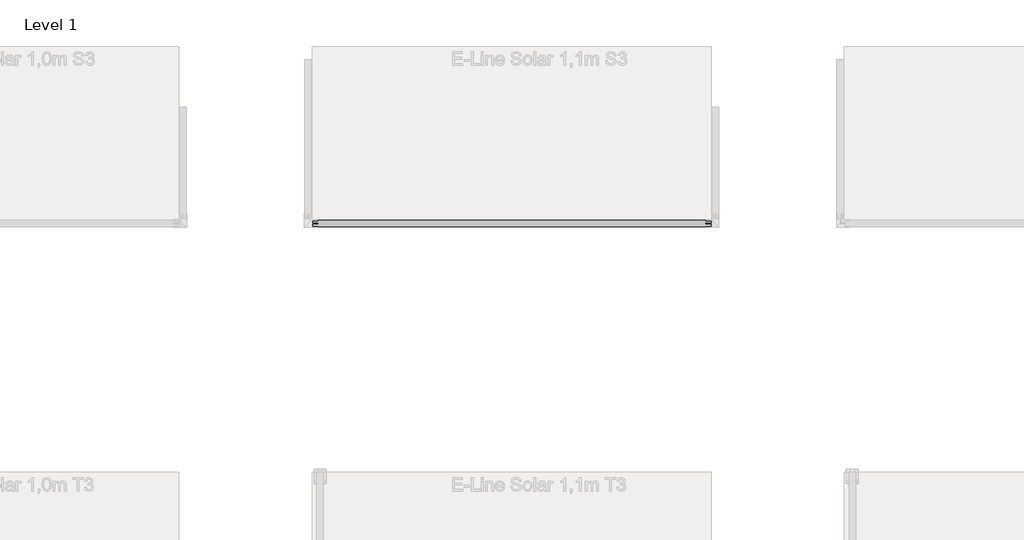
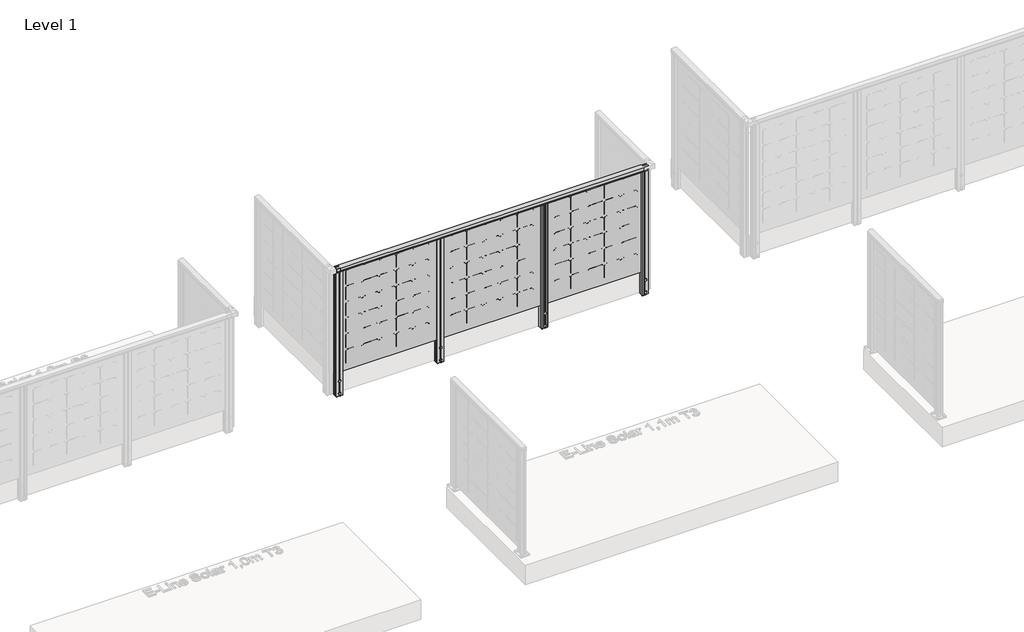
# One storey, part 39 of 66: 1 railing.
"""IFC4 building model written with IfcOpenShell, lengths in millimetres."""

from ifc_helpers import new_model, si_unit, point, frame, frame_2d, origin, place, context, project, spatial, polyline, circle_curve, trimmed, segment, composite_curve, outline, extrude, element, save

model = new_model("IFC4")

# Units and contexts
model_context = context("Model", 3, world=origin())
ifc_project = project(units=[si_unit("LENGTHUNIT", "METRE", prefix="MILLI")], contexts=[model_context])

# Site, building, storey
site = spatial("IfcSite", under=ifc_project)
building = spatial("IfcBuilding", under=site)
storey = spatial("IfcBuildingStorey", under=building, Name="Level 1", Elevation=0.0)

# Railing
placement = place(None, origin())
element("IfcRailing", 1, ObjectType="E-Line Solar 1,1m S3 5 columns of solar elements", at=placement, inside=storey, context=model_context, shape_type="SweptSolid", body=[
    extrude(outline(composite_curve([segment(polyline([(213.4211819, 1094.1390059), (213.4211819, 1067.1990555), (212.8063989, 1066.5842725), (213.4211819, 1065.9694895), (213.4211819, 1057.2498847), (211.6613734, 1057.2498847), (211.6613734, 1080.4998829), (164.6663272, 1080.4998829), (164.6663272, 1057.2498847), (162.8613743, 1057.2498847), (162.8613743, 1065.8194895), (163.4834554, 1066.4415706), (162.9015237, 1067.0235023), (162.9015237, 1094.1342258)]), True, "CONTINUOUS"), segment(trimmed(circle_curve(frame_2d((188.1662216, 1042.6785502)), 57.3235687), [point((162.9015237, 1094.1342258))], [point((213.4211819, 1094.1390059))], False, "CARTESIAN"), True, "CONTINUOUS")], self_intersect=False)), frame((19301.5263105, 0.0, 0.0), z_axis=(1.0, 0.0, 0.0), x_axis=(0.0, 1.0, 0.0)), (0.0, 0.0, 1.0), 2995.0),
    extrude(outline(polyline([(19301.5263105, 184.5015979), (19301.5263105, 193.2615979), (22296.5263105, 193.2615979), (22296.5263105, 184.5015979), (19301.5263105, 184.5015979)])), frame((0.0, 0.0, 28.0), z_axis=(0.0, 0.0, 1.0), x_axis=(1.0, 0.0, 0.0)), (0.0, 0.0, 1.0), 1052.0),
    extrude(outline(polyline([(0.0, 0.0), (-16.036927, 16.036927), (-16.036927, 139.963073), (0.0, 156.0), (123.9261459, 156.0), (139.963073, 139.963073), (139.963073, 16.036927), (123.9261459, 0.0), (0.0, 0.0)])), frame((21555.0263105, 184.3815979, 1024.4156895), z_axis=(7.733303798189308e-12, 1.0, 0.0), x_axis=(0.0, 0.0, -1.0)), (0.0, 0.0, 1.0), 1.0),
    extrude(outline(polyline([(0.0, 0.0), (-16.036927, 16.036927), (-16.036927, 139.963073), (0.0, 156.0), (123.9261459, 156.0), (139.963073, 139.963073), (139.963073, 16.036927), (123.9261459, 0.0), (0.0, 0.0)])), frame((21716.0263105, 184.3815979, 1024.4156895), z_axis=(7.733303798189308e-12, 1.0, 0.0), x_axis=(0.0, 0.0, -1.0)), (0.0, 0.0, 1.0), 1.0),
    extrude(outline(polyline([(0.0, 0.0), (-16.036927, 16.036927), (-16.036927, 139.963073), (0.0, 156.0), (123.9261459, 156.0), (139.963073, 139.963073), (139.963073, 16.036927), (123.9261459, 0.0), (0.0, 0.0)])), frame((22199.0263105, 184.3815979, 1024.4156895), z_axis=(7.733303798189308e-12, 1.0, 0.0), x_axis=(0.0, 0.0, -1.0)), (0.0, 0.0, 1.0), 1.0),
    extrude(outline(polyline([(0.0, 0.0), (-16.036927, 16.036927), (-16.036927, 139.963073), (0.0, 156.0), (123.9261459, 156.0), (139.963073, 139.963073), (139.963073, 16.036927), (123.9261459, 0.0), (0.0, 0.0)])), frame((22038.0263105, 184.3815979, 1024.4156895), z_axis=(7.733303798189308e-12, 1.0, 0.0), x_axis=(0.0, 0.0, -1.0)), (0.0, 0.0, 1.0), 1.0),
    extrude(outline(polyline([(0.0, 0.0), (-16.036927, 16.036927), (-16.036927, 139.963073), (0.0, 156.0), (123.9261459, 156.0), (139.963073, 139.963073), (139.963073, 16.036927), (123.9261459, 0.0), (0.0, 0.0)])), frame((21877.0263105, 184.3815979, 1024.4156895), z_axis=(7.733303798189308e-12, 1.0, 0.0), x_axis=(0.0, 0.0, -1.0)), (0.0, 0.0, 1.0), 1.0),
    extrude(outline(polyline([(0.0, 0.0), (-16.036927, 16.036927), (-16.036927, 139.963073), (0.0, 156.0), (123.9261459, 156.0), (139.963073, 139.963073), (139.963073, 16.036927), (123.9261459, 0.0), (0.0, 0.0)])), frame((21555.0263105, 184.3815979, 863.4156895), z_axis=(7.733303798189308e-12, 1.0, 0.0), x_axis=(0.0, 0.0, -1.0)), (0.0, 0.0, 1.0), 1.0),
    extrude(outline(polyline([(0.0, 0.0), (-16.036927, 16.036927), (-16.036927, 139.963073), (0.0, 156.0), (123.9261459, 156.0), (139.963073, 139.963073), (139.963073, 16.036927), (123.9261459, 0.0), (0.0, 0.0)])), frame((21555.0263105, 184.3815979, 702.4156895), z_axis=(7.733303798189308e-12, 1.0, 0.0), x_axis=(0.0, 0.0, -1.0)), (0.0, 0.0, 1.0), 1.0),
    extrude(outline(polyline([(0.0, 0.0), (-16.036927, 16.036927), (-16.036927, 139.963073), (0.0, 156.0), (123.9261459, 156.0), (139.963073, 139.963073), (139.963073, 16.036927), (123.9261459, 0.0), (0.0, 0.0)])), frame((21555.0263105, 184.3815979, 541.4156895), z_axis=(7.733303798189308e-12, 1.0, 0.0), x_axis=(0.0, 0.0, -1.0)), (0.0, 0.0, 1.0), 1.0),
    extrude(outline(polyline([(0.0, 0.0), (-16.036927, 16.036927), (-16.036927, 139.963073), (0.0, 156.0), (123.9261459, 156.0), (139.963073, 139.963073), (139.963073, 16.036927), (123.9261459, 0.0), (0.0, 0.0)])), frame((21555.0263105, 184.3815979, 380.4156895), z_axis=(7.733303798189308e-12, 1.0, 0.0), x_axis=(0.0, 0.0, -1.0)), (0.0, 0.0, 1.0), 1.0),
    extrude(outline(polyline([(0.0, 0.0), (-16.036927, 16.036927), (-16.036927, 139.963073), (0.0, 156.0), (123.9261459, 156.0), (139.963073, 139.963073), (139.963073, 16.036927), (123.9261459, 0.0), (0.0, 0.0)])), frame((21555.0263105, 184.3815979, 219.4156895), z_axis=(7.733303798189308e-12, 1.0, 0.0), x_axis=(0.0, 0.0, -1.0)), (0.0, 0.0, 1.0), 1.0),
    extrude(outline(polyline([(0.0, 0.0), (-16.036927, 16.036927), (-16.036927, 139.963073), (0.0, 156.0), (123.9261459, 156.0), (139.963073, 139.963073), (139.963073, 16.036927), (123.9261459, 0.0), (0.0, 0.0)])), frame((21716.0263105, 184.3815979, 863.4156895), z_axis=(7.733303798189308e-12, 1.0, 0.0), x_axis=(0.0, 0.0, -1.0)), (0.0, 0.0, 1.0), 1.0),
    extrude(outline(polyline([(0.0, 0.0), (-16.036927, 16.036927), (-16.036927, 139.963073), (0.0, 156.0), (123.9261459, 156.0), (139.963073, 139.963073), (139.963073, 16.036927), (123.9261459, 0.0), (0.0, 0.0)])), frame((21716.0263105, 184.3815979, 702.4156895), z_axis=(7.733303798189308e-12, 1.0, 0.0), x_axis=(0.0, 0.0, -1.0)), (0.0, 0.0, 1.0), 1.0),
    extrude(outline(polyline([(0.0, 0.0), (-16.036927, 16.036927), (-16.036927, 139.963073), (0.0, 156.0), (123.9261459, 156.0), (139.963073, 139.963073), (139.963073, 16.036927), (123.9261459, 0.0), (0.0, 0.0)])), frame((21716.0263105, 184.3815979, 541.4156895), z_axis=(7.733303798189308e-12, 1.0, 0.0), x_axis=(0.0, 0.0, -1.0)), (0.0, 0.0, 1.0), 1.0),
    extrude(outline(polyline([(0.0, 0.0), (-16.036927, 16.036927), (-16.036927, 139.963073), (0.0, 156.0), (123.9261459, 156.0), (139.963073, 139.963073), (139.963073, 16.036927), (123.9261459, 0.0), (0.0, 0.0)])), frame((21716.0263105, 184.3815979, 380.4156895), z_axis=(7.733303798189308e-12, 1.0, 0.0), x_axis=(0.0, 0.0, -1.0)), (0.0, 0.0, 1.0), 1.0),
    extrude(outline(polyline([(0.0, 0.0), (-16.036927, 16.036927), (-16.036927, 139.963073), (0.0, 156.0), (123.9261459, 156.0), (139.963073, 139.963073), (139.963073, 16.036927), (123.9261459, 0.0), (0.0, 0.0)])), frame((21716.0263105, 184.3815979, 219.4156895), z_axis=(7.733303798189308e-12, 1.0, 0.0), x_axis=(0.0, 0.0, -1.0)), (0.0, 0.0, 1.0), 1.0),
    extrude(outline(polyline([(0.0, 0.0), (-16.036927, 16.036927), (-16.036927, 139.963073), (0.0, 156.0), (123.9261459, 156.0), (139.963073, 139.963073), (139.963073, 16.036927), (123.9261459, 0.0), (0.0, 0.0)])), frame((22199.0263105, 184.3815979, 863.4156895), z_axis=(7.733303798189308e-12, 1.0, 0.0), x_axis=(0.0, 0.0, -1.0)), (0.0, 0.0, 1.0), 1.0),
    extrude(outline(polyline([(0.0, 0.0), (-16.036927, 16.036927), (-16.036927, 139.963073), (0.0, 156.0), (123.9261459, 156.0), (139.963073, 139.963073), (139.963073, 16.036927), (123.9261459, 0.0), (0.0, 0.0)])), frame((22199.0263105, 184.3815979, 702.4156895), z_axis=(7.733303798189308e-12, 1.0, 0.0), x_axis=(0.0, 0.0, -1.0)), (0.0, 0.0, 1.0), 1.0),
    extrude(outline(polyline([(0.0, 0.0), (-16.036927, 16.036927), (-16.036927, 139.963073), (0.0, 156.0), (123.9261459, 156.0), (139.963073, 139.963073), (139.963073, 16.036927), (123.9261459, 0.0), (0.0, 0.0)])), frame((22199.0263105, 184.3815979, 541.4156895), z_axis=(7.733303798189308e-12, 1.0, 0.0), x_axis=(0.0, 0.0, -1.0)), (0.0, 0.0, 1.0), 1.0),
    extrude(outline(polyline([(0.0, 0.0), (-16.036927, 16.036927), (-16.036927, 139.963073), (0.0, 156.0), (123.9261459, 156.0), (139.963073, 139.963073), (139.963073, 16.036927), (123.9261459, 0.0), (0.0, 0.0)])), frame((22199.0263105, 184.3815979, 380.4156895), z_axis=(7.733303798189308e-12, 1.0, 0.0), x_axis=(0.0, 0.0, -1.0)), (0.0, 0.0, 1.0), 1.0),
    extrude(outline(polyline([(0.0, 0.0), (-16.036927, 16.036927), (-16.036927, 139.963073), (0.0, 156.0), (123.9261459, 156.0), (139.963073, 139.963073), (139.963073, 16.036927), (123.9261459, 0.0), (0.0, 0.0)])), frame((22199.0263105, 184.3815979, 219.4156895), z_axis=(7.733303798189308e-12, 1.0, 0.0), x_axis=(0.0, 0.0, -1.0)), (0.0, 0.0, 1.0), 1.0),
    extrude(outline(polyline([(0.0, 0.0), (-16.036927, 16.036927), (-16.036927, 139.963073), (0.0, 156.0), (123.9261459, 156.0), (139.963073, 139.963073), (139.963073, 16.036927), (123.9261459, 0.0), (0.0, 0.0)])), frame((22038.0263105, 184.3815979, 863.4156895), z_axis=(7.733303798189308e-12, 1.0, 0.0), x_axis=(0.0, 0.0, -1.0)), (0.0, 0.0, 1.0), 1.0),
    extrude(outline(polyline([(0.0, 0.0), (-16.036927, 16.036927), (-16.036927, 139.963073), (0.0, 156.0), (123.9261459, 156.0), (139.963073, 139.963073), (139.963073, 16.036927), (123.9261459, 0.0), (0.0, 0.0)])), frame((22038.0263105, 184.3815979, 702.4156895), z_axis=(7.733303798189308e-12, 1.0, 0.0), x_axis=(0.0, 0.0, -1.0)), (0.0, 0.0, 1.0), 1.0),
    extrude(outline(polyline([(0.0, 0.0), (-16.036927, 16.036927), (-16.036927, 139.963073), (0.0, 156.0), (123.9261459, 156.0), (139.963073, 139.963073), (139.963073, 16.036927), (123.9261459, 0.0), (0.0, 0.0)])), frame((22038.0263105, 184.3815979, 541.4156895), z_axis=(7.733303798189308e-12, 1.0, 0.0), x_axis=(0.0, 0.0, -1.0)), (0.0, 0.0, 1.0), 1.0),
    extrude(outline(polyline([(0.0, 0.0), (-16.036927, 16.036927), (-16.036927, 139.963073), (0.0, 156.0), (123.9261459, 156.0), (139.963073, 139.963073), (139.963073, 16.036927), (123.9261459, 0.0), (0.0, 0.0)])), frame((22038.0263105, 184.3815979, 380.4156895), z_axis=(7.733303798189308e-12, 1.0, 0.0), x_axis=(0.0, 0.0, -1.0)), (0.0, 0.0, 1.0), 1.0),
    extrude(outline(polyline([(0.0, 0.0), (-16.036927, 16.036927), (-16.036927, 139.963073), (0.0, 156.0), (123.9261459, 156.0), (139.963073, 139.963073), (139.963073, 16.036927), (123.9261459, 0.0), (0.0, 0.0)])), frame((22038.0263105, 184.3815979, 219.4156895), z_axis=(7.733303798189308e-12, 1.0, 0.0), x_axis=(0.0, 0.0, -1.0)), (0.0, 0.0, 1.0), 1.0),
    extrude(outline(polyline([(0.0, 0.0), (-16.036927, 16.036927), (-16.036927, 139.963073), (0.0, 156.0), (123.9261459, 156.0), (139.963073, 139.963073), (139.963073, 16.036927), (123.9261459, 0.0), (0.0, 0.0)])), frame((21877.0263105, 184.3815979, 863.4156895), z_axis=(7.733303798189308e-12, 1.0, 0.0), x_axis=(0.0, 0.0, -1.0)), (0.0, 0.0, 1.0), 1.0),
    extrude(outline(polyline([(0.0, 0.0), (-16.036927, 16.036927), (-16.036927, 139.963073), (0.0, 156.0), (123.9261459, 156.0), (139.963073, 139.963073), (139.963073, 16.036927), (123.9261459, 0.0), (0.0, 0.0)])), frame((21877.0263105, 184.3815979, 702.4156895), z_axis=(7.733303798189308e-12, 1.0, 0.0), x_axis=(0.0, 0.0, -1.0)), (0.0, 0.0, 1.0), 1.0),
    extrude(outline(polyline([(0.0, 0.0), (-16.036927, 16.036927), (-16.036927, 139.963073), (0.0, 156.0), (123.9261459, 156.0), (139.963073, 139.963073), (139.963073, 16.036927), (123.9261459, 0.0), (0.0, 0.0)])), frame((21877.0263105, 184.3815979, 541.4156895), z_axis=(7.733303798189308e-12, 1.0, 0.0), x_axis=(0.0, 0.0, -1.0)), (0.0, 0.0, 1.0), 1.0),
    extrude(outline(polyline([(0.0, 0.0), (-16.036927, 16.036927), (-16.036927, 139.963073), (0.0, 156.0), (123.9261459, 156.0), (139.963073, 139.963073), (139.963073, 16.036927), (123.9261459, 0.0), (0.0, 0.0)])), frame((21877.0263105, 184.3815979, 380.4156895), z_axis=(7.733303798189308e-12, 1.0, 0.0), x_axis=(0.0, 0.0, -1.0)), (0.0, 0.0, 1.0), 1.0),
    extrude(outline(polyline([(0.0, 0.0), (-16.036927, 16.036927), (-16.036927, 139.963073), (0.0, 156.0), (123.9261459, 156.0), (139.963073, 139.963073), (139.963073, 16.036927), (123.9261459, 0.0), (0.0, 0.0)])), frame((21877.0263105, 184.3815979, 219.4156895), z_axis=(7.733303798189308e-12, 1.0, 0.0), x_axis=(0.0, 0.0, -1.0)), (0.0, 0.0, 1.0), 1.0),
    extrude(outline(polyline([(0.0, 0.0), (-16.036927, 16.036927), (-16.036927, 139.963073), (0.0, 156.0), (123.9261459, 156.0), (139.963073, 139.963073), (139.963073, 16.036927), (123.9261459, 0.0), (0.0, 0.0)])), frame((20557.5263105, 184.3815979, 1024.4156895), z_axis=(7.733303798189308e-12, 1.0, 0.0), x_axis=(0.0, 0.0, -1.0)), (0.0, 0.0, 1.0), 1.0),
    extrude(outline(polyline([(0.0, 0.0), (-16.036927, 16.036927), (-16.036927, 139.963073), (0.0, 156.0), (123.9261459, 156.0), (139.963073, 139.963073), (139.963073, 16.036927), (123.9261459, 0.0), (0.0, 0.0)])), frame((20718.5263105, 184.3815979, 1024.4156895), z_axis=(7.733303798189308e-12, 1.0, 0.0), x_axis=(0.0, 0.0, -1.0)), (0.0, 0.0, 1.0), 1.0),
    extrude(outline(polyline([(0.0, 0.0), (-16.036927, 16.036927), (-16.036927, 139.963073), (0.0, 156.0), (123.9261459, 156.0), (139.963073, 139.963073), (139.963073, 16.036927), (123.9261459, 0.0), (0.0, 0.0)])), frame((21201.5263105, 184.3815979, 1024.4156895), z_axis=(7.733303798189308e-12, 1.0, 0.0), x_axis=(0.0, 0.0, -1.0)), (0.0, 0.0, 1.0), 1.0),
    extrude(outline(polyline([(0.0, 0.0), (-16.036927, 16.036927), (-16.036927, 139.963073), (0.0, 156.0), (123.9261459, 156.0), (139.963073, 139.963073), (139.963073, 16.036927), (123.9261459, 0.0), (0.0, 0.0)])), frame((21040.5263105, 184.3815979, 1024.4156895), z_axis=(7.733303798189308e-12, 1.0, 0.0), x_axis=(0.0, 0.0, -1.0)), (0.0, 0.0, 1.0), 1.0),
    extrude(outline(polyline([(0.0, 0.0), (-16.036927, 16.036927), (-16.036927, 139.963073), (0.0, 156.0), (123.9261459, 156.0), (139.963073, 139.963073), (139.963073, 16.036927), (123.9261459, 0.0), (0.0, 0.0)])), frame((20879.5263105, 184.3815979, 1024.4156895), z_axis=(7.733303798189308e-12, 1.0, 0.0), x_axis=(0.0, 0.0, -1.0)), (0.0, 0.0, 1.0), 1.0),
    extrude(outline(polyline([(0.0, 0.0), (-16.036927, 16.036927), (-16.036927, 139.963073), (0.0, 156.0), (123.9261459, 156.0), (139.963073, 139.963073), (139.963073, 16.036927), (123.9261459, 0.0), (0.0, 0.0)])), frame((20557.5263105, 184.3815979, 863.4156895), z_axis=(7.733303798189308e-12, 1.0, 0.0), x_axis=(0.0, 0.0, -1.0)), (0.0, 0.0, 1.0), 1.0),
    extrude(outline(polyline([(0.0, 0.0), (-16.036927, 16.036927), (-16.036927, 139.963073), (0.0, 156.0), (123.9261459, 156.0), (139.963073, 139.963073), (139.963073, 16.036927), (123.9261459, 0.0), (0.0, 0.0)])), frame((20557.5263105, 184.3815979, 702.4156895), z_axis=(7.733303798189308e-12, 1.0, 0.0), x_axis=(0.0, 0.0, -1.0)), (0.0, 0.0, 1.0), 1.0),
    extrude(outline(polyline([(0.0, 0.0), (-16.036927, 16.036927), (-16.036927, 139.963073), (0.0, 156.0), (123.9261459, 156.0), (139.963073, 139.963073), (139.963073, 16.036927), (123.9261459, 0.0), (0.0, 0.0)])), frame((20557.5263105, 184.3815979, 541.4156895), z_axis=(7.733303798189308e-12, 1.0, 0.0), x_axis=(0.0, 0.0, -1.0)), (0.0, 0.0, 1.0), 1.0),
    extrude(outline(polyline([(0.0, 0.0), (-16.036927, 16.036927), (-16.036927, 139.963073), (0.0, 156.0), (123.9261459, 156.0), (139.963073, 139.963073), (139.963073, 16.036927), (123.9261459, 0.0), (0.0, 0.0)])), frame((20557.5263105, 184.3815979, 380.4156895), z_axis=(7.733303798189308e-12, 1.0, 0.0), x_axis=(0.0, 0.0, -1.0)), (0.0, 0.0, 1.0), 1.0),
    extrude(outline(polyline([(0.0, 0.0), (-16.036927, 16.036927), (-16.036927, 139.963073), (0.0, 156.0), (123.9261459, 156.0), (139.963073, 139.963073), (139.963073, 16.036927), (123.9261459, 0.0), (0.0, 0.0)])), frame((20557.5263105, 184.3815979, 219.4156895), z_axis=(7.733303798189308e-12, 1.0, 0.0), x_axis=(0.0, 0.0, -1.0)), (0.0, 0.0, 1.0), 1.0),
    extrude(outline(polyline([(0.0, 0.0), (-16.036927, 16.036927), (-16.036927, 139.963073), (0.0, 156.0), (123.9261459, 156.0), (139.963073, 139.963073), (139.963073, 16.036927), (123.9261459, 0.0), (0.0, 0.0)])), frame((20718.5263105, 184.3815979, 863.4156895), z_axis=(7.733303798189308e-12, 1.0, 0.0), x_axis=(0.0, 0.0, -1.0)), (0.0, 0.0, 1.0), 1.0),
    extrude(outline(polyline([(0.0, 0.0), (-16.036927, 16.036927), (-16.036927, 139.963073), (0.0, 156.0), (123.9261459, 156.0), (139.963073, 139.963073), (139.963073, 16.036927), (123.9261459, 0.0), (0.0, 0.0)])), frame((20718.5263105, 184.3815979, 702.4156895), z_axis=(7.733303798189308e-12, 1.0, 0.0), x_axis=(0.0, 0.0, -1.0)), (0.0, 0.0, 1.0), 1.0),
    extrude(outline(polyline([(0.0, 0.0), (-16.036927, 16.036927), (-16.036927, 139.963073), (0.0, 156.0), (123.9261459, 156.0), (139.963073, 139.963073), (139.963073, 16.036927), (123.9261459, 0.0), (0.0, 0.0)])), frame((20718.5263105, 184.3815979, 541.4156895), z_axis=(7.733303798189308e-12, 1.0, 0.0), x_axis=(0.0, 0.0, -1.0)), (0.0, 0.0, 1.0), 1.0),
    extrude(outline(polyline([(0.0, 0.0), (-16.036927, 16.036927), (-16.036927, 139.963073), (0.0, 156.0), (123.9261459, 156.0), (139.963073, 139.963073), (139.963073, 16.036927), (123.9261459, 0.0), (0.0, 0.0)])), frame((20718.5263105, 184.3815979, 380.4156895), z_axis=(7.733303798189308e-12, 1.0, 0.0), x_axis=(0.0, 0.0, -1.0)), (0.0, 0.0, 1.0), 1.0),
    extrude(outline(polyline([(0.0, 0.0), (-16.036927, 16.036927), (-16.036927, 139.963073), (0.0, 156.0), (123.9261459, 156.0), (139.963073, 139.963073), (139.963073, 16.036927), (123.9261459, 0.0), (0.0, 0.0)])), frame((20718.5263105, 184.3815979, 219.4156895), z_axis=(7.733303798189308e-12, 1.0, 0.0), x_axis=(0.0, 0.0, -1.0)), (0.0, 0.0, 1.0), 1.0),
    extrude(outline(polyline([(0.0, 0.0), (-16.036927, 16.036927), (-16.036927, 139.963073), (0.0, 156.0), (123.9261459, 156.0), (139.963073, 139.963073), (139.963073, 16.036927), (123.9261459, 0.0), (0.0, 0.0)])), frame((21201.5263105, 184.3815979, 863.4156895), z_axis=(7.733303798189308e-12, 1.0, 0.0), x_axis=(0.0, 0.0, -1.0)), (0.0, 0.0, 1.0), 1.0),
    extrude(outline(polyline([(0.0, 0.0), (-16.036927, 16.036927), (-16.036927, 139.963073), (0.0, 156.0), (123.9261459, 156.0), (139.963073, 139.963073), (139.963073, 16.036927), (123.9261459, 0.0), (0.0, 0.0)])), frame((21201.5263105, 184.3815979, 702.4156895), z_axis=(7.733303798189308e-12, 1.0, 0.0), x_axis=(0.0, 0.0, -1.0)), (0.0, 0.0, 1.0), 1.0),
    extrude(outline(polyline([(0.0, 0.0), (-16.036927, 16.036927), (-16.036927, 139.963073), (0.0, 156.0), (123.9261459, 156.0), (139.963073, 139.963073), (139.963073, 16.036927), (123.9261459, 0.0), (0.0, 0.0)])), frame((21201.5263105, 184.3815979, 541.4156895), z_axis=(7.733303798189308e-12, 1.0, 0.0), x_axis=(0.0, 0.0, -1.0)), (0.0, 0.0, 1.0), 1.0),
    extrude(outline(polyline([(0.0, 0.0), (-16.036927, 16.036927), (-16.036927, 139.963073), (0.0, 156.0), (123.9261459, 156.0), (139.963073, 139.963073), (139.963073, 16.036927), (123.9261459, 0.0), (0.0, 0.0)])), frame((21201.5263105, 184.3815979, 380.4156895), z_axis=(7.733303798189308e-12, 1.0, 0.0), x_axis=(0.0, 0.0, -1.0)), (0.0, 0.0, 1.0), 1.0),
    extrude(outline(polyline([(0.0, 0.0), (-16.036927, 16.036927), (-16.036927, 139.963073), (0.0, 156.0), (123.9261459, 156.0), (139.963073, 139.963073), (139.963073, 16.036927), (123.9261459, 0.0), (0.0, 0.0)])), frame((21201.5263105, 184.3815979, 219.4156895), z_axis=(7.733303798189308e-12, 1.0, 0.0), x_axis=(0.0, 0.0, -1.0)), (0.0, 0.0, 1.0), 1.0),
    extrude(outline(polyline([(0.0, 0.0), (-16.036927, 16.036927), (-16.036927, 139.963073), (0.0, 156.0), (123.9261459, 156.0), (139.963073, 139.963073), (139.963073, 16.036927), (123.9261459, 0.0), (0.0, 0.0)])), frame((21040.5263105, 184.3815979, 863.4156895), z_axis=(7.733303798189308e-12, 1.0, 0.0), x_axis=(0.0, 0.0, -1.0)), (0.0, 0.0, 1.0), 1.0),
    extrude(outline(polyline([(0.0, 0.0), (-16.036927, 16.036927), (-16.036927, 139.963073), (0.0, 156.0), (123.9261459, 156.0), (139.963073, 139.963073), (139.963073, 16.036927), (123.9261459, 0.0), (0.0, 0.0)])), frame((21040.5263105, 184.3815979, 702.4156895), z_axis=(7.733303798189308e-12, 1.0, 0.0), x_axis=(0.0, 0.0, -1.0)), (0.0, 0.0, 1.0), 1.0),
    extrude(outline(polyline([(0.0, 0.0), (-16.036927, 16.036927), (-16.036927, 139.963073), (0.0, 156.0), (123.9261459, 156.0), (139.963073, 139.963073), (139.963073, 16.036927), (123.9261459, 0.0), (0.0, 0.0)])), frame((21040.5263105, 184.3815979, 541.4156895), z_axis=(7.733303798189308e-12, 1.0, 0.0), x_axis=(0.0, 0.0, -1.0)), (0.0, 0.0, 1.0), 1.0),
    extrude(outline(polyline([(0.0, 0.0), (-16.036927, 16.036927), (-16.036927, 139.963073), (0.0, 156.0), (123.9261459, 156.0), (139.963073, 139.963073), (139.963073, 16.036927), (123.9261459, 0.0), (0.0, 0.0)])), frame((21040.5263105, 184.3815979, 380.4156895), z_axis=(7.733303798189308e-12, 1.0, 0.0), x_axis=(0.0, 0.0, -1.0)), (0.0, 0.0, 1.0), 1.0),
    extrude(outline(polyline([(0.0, 0.0), (-16.036927, 16.036927), (-16.036927, 139.963073), (0.0, 156.0), (123.9261459, 156.0), (139.963073, 139.963073), (139.963073, 16.036927), (123.9261459, 0.0), (0.0, 0.0)])), frame((21040.5263105, 184.3815979, 219.4156895), z_axis=(7.733303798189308e-12, 1.0, 0.0), x_axis=(0.0, 0.0, -1.0)), (0.0, 0.0, 1.0), 1.0),
    extrude(outline(polyline([(0.0, 0.0), (-16.036927, 16.036927), (-16.036927, 139.963073), (0.0, 156.0), (123.9261459, 156.0), (139.963073, 139.963073), (139.963073, 16.036927), (123.9261459, 0.0), (0.0, 0.0)])), frame((20879.5263105, 184.3815979, 863.4156895), z_axis=(7.733303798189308e-12, 1.0, 0.0), x_axis=(0.0, 0.0, -1.0)), (0.0, 0.0, 1.0), 1.0),
    extrude(outline(polyline([(0.0, 0.0), (-16.036927, 16.036927), (-16.036927, 139.963073), (0.0, 156.0), (123.9261459, 156.0), (139.963073, 139.963073), (139.963073, 16.036927), (123.9261459, 0.0), (0.0, 0.0)])), frame((20879.5263105, 184.3815979, 702.4156895), z_axis=(7.733303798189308e-12, 1.0, 0.0), x_axis=(0.0, 0.0, -1.0)), (0.0, 0.0, 1.0), 1.0),
    extrude(outline(polyline([(0.0, 0.0), (-16.036927, 16.036927), (-16.036927, 139.963073), (0.0, 156.0), (123.9261459, 156.0), (139.963073, 139.963073), (139.963073, 16.036927), (123.9261459, 0.0), (0.0, 0.0)])), frame((20879.5263105, 184.3815979, 541.4156895), z_axis=(7.733303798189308e-12, 1.0, 0.0), x_axis=(0.0, 0.0, -1.0)), (0.0, 0.0, 1.0), 1.0),
    extrude(outline(polyline([(0.0, 0.0), (-16.036927, 16.036927), (-16.036927, 139.963073), (0.0, 156.0), (123.9261459, 156.0), (139.963073, 139.963073), (139.963073, 16.036927), (123.9261459, 0.0), (0.0, 0.0)])), frame((20879.5263105, 184.3815979, 380.4156895), z_axis=(7.733303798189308e-12, 1.0, 0.0), x_axis=(0.0, 0.0, -1.0)), (0.0, 0.0, 1.0), 1.0),
    extrude(outline(polyline([(0.0, 0.0), (-16.036927, 16.036927), (-16.036927, 139.963073), (0.0, 156.0), (123.9261459, 156.0), (139.963073, 139.963073), (139.963073, 16.036927), (123.9261459, 0.0), (0.0, 0.0)])), frame((20879.5263105, 184.3815979, 219.4156895), z_axis=(7.733303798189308e-12, 1.0, 0.0), x_axis=(0.0, 0.0, -1.0)), (0.0, 0.0, 1.0), 1.0),
    extrude(outline(polyline([(0.0, 0.0), (-16.036927, 16.036927), (-16.036927, 139.963073), (0.0, 156.0), (123.9261459, 156.0), (139.963073, 139.963073), (139.963073, 16.036927), (123.9261459, 0.0), (0.0, 0.0)])), frame((19557.5263105, 184.3815979, 1024.4156895), z_axis=(7.733303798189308e-12, 1.0, 0.0), x_axis=(0.0, 0.0, -1.0)), (0.0, 0.0, 1.0), 1.0),
    extrude(outline(polyline([(0.0, 0.0), (-16.036927, 16.036927), (-16.036927, 139.963073), (0.0, 156.0), (123.9261459, 156.0), (139.963073, 139.963073), (139.963073, 16.036927), (123.9261459, 0.0), (0.0, 0.0)])), frame((19718.5263105, 184.3815979, 1024.4156895), z_axis=(7.733303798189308e-12, 1.0, 0.0), x_axis=(0.0, 0.0, -1.0)), (0.0, 0.0, 1.0), 1.0),
    extrude(outline(polyline([(0.0, 0.0), (-16.036927, 16.036927), (-16.036927, 139.963073), (0.0, 156.0), (123.9261459, 156.0), (139.963073, 139.963073), (139.963073, 16.036927), (123.9261459, 0.0), (0.0, 0.0)])), frame((20201.5263105, 184.3815979, 1024.4156895), z_axis=(7.733303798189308e-12, 1.0, 0.0), x_axis=(0.0, 0.0, -1.0)), (0.0, 0.0, 1.0), 1.0),
    extrude(outline(polyline([(0.0, 0.0), (-16.036927, 16.036927), (-16.036927, 139.963073), (0.0, 156.0), (123.9261459, 156.0), (139.963073, 139.963073), (139.963073, 16.036927), (123.9261459, 0.0), (0.0, 0.0)])), frame((20040.5263105, 184.3815979, 1024.4156895), z_axis=(7.733303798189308e-12, 1.0, 0.0), x_axis=(0.0, 0.0, -1.0)), (0.0, 0.0, 1.0), 1.0),
    extrude(outline(polyline([(0.0, 0.0), (-16.036927, 16.036927), (-16.036927, 139.963073), (0.0, 156.0), (123.9261459, 156.0), (139.963073, 139.963073), (139.963073, 16.036927), (123.9261459, 0.0), (0.0, 0.0)])), frame((19879.5263105, 184.3815979, 1024.4156895), z_axis=(7.733303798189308e-12, 1.0, 0.0), x_axis=(0.0, 0.0, -1.0)), (0.0, 0.0, 1.0), 1.0),
    extrude(outline(polyline([(0.0, 0.0), (-16.036927, 16.036927), (-16.036927, 139.963073), (0.0, 156.0), (123.9261459, 156.0), (139.963073, 139.963073), (139.963073, 16.036927), (123.9261459, 0.0), (0.0, 0.0)])), frame((19557.5263105, 184.3815979, 863.4156895), z_axis=(7.733303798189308e-12, 1.0, 0.0), x_axis=(0.0, 0.0, -1.0)), (0.0, 0.0, 1.0), 1.0),
    extrude(outline(polyline([(0.0, 0.0), (-16.036927, 16.036927), (-16.036927, 139.963073), (0.0, 156.0), (123.9261459, 156.0), (139.963073, 139.963073), (139.963073, 16.036927), (123.9261459, 0.0), (0.0, 0.0)])), frame((19557.5263105, 184.3815979, 702.4156895), z_axis=(7.733303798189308e-12, 1.0, 0.0), x_axis=(0.0, 0.0, -1.0)), (0.0, 0.0, 1.0), 1.0),
    extrude(outline(polyline([(0.0, 0.0), (-16.036927, 16.036927), (-16.036927, 139.963073), (0.0, 156.0), (123.9261459, 156.0), (139.963073, 139.963073), (139.963073, 16.036927), (123.9261459, 0.0), (0.0, 0.0)])), frame((19557.5263105, 184.3815979, 541.4156895), z_axis=(7.733303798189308e-12, 1.0, 0.0), x_axis=(0.0, 0.0, -1.0)), (0.0, 0.0, 1.0), 1.0),
    extrude(outline(polyline([(0.0, 0.0), (-16.036927, 16.036927), (-16.036927, 139.963073), (0.0, 156.0), (123.9261459, 156.0), (139.963073, 139.963073), (139.963073, 16.036927), (123.9261459, 0.0), (0.0, 0.0)])), frame((19557.5263105, 184.3815979, 380.4156895), z_axis=(7.733303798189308e-12, 1.0, 0.0), x_axis=(0.0, 0.0, -1.0)), (0.0, 0.0, 1.0), 1.0),
    extrude(outline(polyline([(0.0, 0.0), (-16.036927, 16.036927), (-16.036927, 139.963073), (0.0, 156.0), (123.9261459, 156.0), (139.963073, 139.963073), (139.963073, 16.036927), (123.9261459, 0.0), (0.0, 0.0)])), frame((19557.5263105, 184.3815979, 219.4156895), z_axis=(7.733303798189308e-12, 1.0, 0.0), x_axis=(0.0, 0.0, -1.0)), (0.0, 0.0, 1.0), 1.0),
    extrude(outline(polyline([(0.0, 0.0), (-16.036927, 16.036927), (-16.036927, 139.963073), (0.0, 156.0), (123.9261459, 156.0), (139.963073, 139.963073), (139.963073, 16.036927), (123.9261459, 0.0), (0.0, 0.0)])), frame((19718.5263105, 184.3815979, 863.4156895), z_axis=(7.733303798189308e-12, 1.0, 0.0), x_axis=(0.0, 0.0, -1.0)), (0.0, 0.0, 1.0), 1.0),
    extrude(outline(polyline([(0.0, 0.0), (-16.036927, 16.036927), (-16.036927, 139.963073), (0.0, 156.0), (123.9261459, 156.0), (139.963073, 139.963073), (139.963073, 16.036927), (123.9261459, 0.0), (0.0, 0.0)])), frame((19718.5263105, 184.3815979, 702.4156895), z_axis=(7.733303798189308e-12, 1.0, 0.0), x_axis=(0.0, 0.0, -1.0)), (0.0, 0.0, 1.0), 1.0),
    extrude(outline(polyline([(0.0, 0.0), (-16.036927, 16.036927), (-16.036927, 139.963073), (0.0, 156.0), (123.9261459, 156.0), (139.963073, 139.963073), (139.963073, 16.036927), (123.9261459, 0.0), (0.0, 0.0)])), frame((19718.5263105, 184.3815979, 541.4156895), z_axis=(7.733303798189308e-12, 1.0, 0.0), x_axis=(0.0, 0.0, -1.0)), (0.0, 0.0, 1.0), 1.0),
    extrude(outline(polyline([(0.0, 0.0), (-16.036927, 16.036927), (-16.036927, 139.963073), (0.0, 156.0), (123.9261459, 156.0), (139.963073, 139.963073), (139.963073, 16.036927), (123.9261459, 0.0), (0.0, 0.0)])), frame((19718.5263105, 184.3815979, 380.4156895), z_axis=(7.733303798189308e-12, 1.0, 0.0), x_axis=(0.0, 0.0, -1.0)), (0.0, 0.0, 1.0), 1.0),
    extrude(outline(polyline([(0.0, 0.0), (-16.036927, 16.036927), (-16.036927, 139.963073), (0.0, 156.0), (123.9261459, 156.0), (139.963073, 139.963073), (139.963073, 16.036927), (123.9261459, 0.0), (0.0, 0.0)])), frame((19718.5263105, 184.3815979, 219.4156895), z_axis=(7.733303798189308e-12, 1.0, 0.0), x_axis=(0.0, 0.0, -1.0)), (0.0, 0.0, 1.0), 1.0),
    extrude(outline(polyline([(0.0, 0.0), (-16.036927, 16.036927), (-16.036927, 139.963073), (0.0, 156.0), (123.9261459, 156.0), (139.963073, 139.963073), (139.963073, 16.036927), (123.9261459, 0.0), (0.0, 0.0)])), frame((20201.5263105, 184.3815979, 863.4156895), z_axis=(7.733303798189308e-12, 1.0, 0.0), x_axis=(0.0, 0.0, -1.0)), (0.0, 0.0, 1.0), 1.0),
    extrude(outline(polyline([(0.0, 0.0), (-16.036927, 16.036927), (-16.036927, 139.963073), (0.0, 156.0), (123.9261459, 156.0), (139.963073, 139.963073), (139.963073, 16.036927), (123.9261459, 0.0), (0.0, 0.0)])), frame((20201.5263105, 184.3815979, 702.4156895), z_axis=(7.733303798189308e-12, 1.0, 0.0), x_axis=(0.0, 0.0, -1.0)), (0.0, 0.0, 1.0), 1.0),
    extrude(outline(polyline([(0.0, 0.0), (-16.036927, 16.036927), (-16.036927, 139.963073), (0.0, 156.0), (123.9261459, 156.0), (139.963073, 139.963073), (139.963073, 16.036927), (123.9261459, 0.0), (0.0, 0.0)])), frame((20201.5263105, 184.3815979, 541.4156895), z_axis=(7.733303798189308e-12, 1.0, 0.0), x_axis=(0.0, 0.0, -1.0)), (0.0, 0.0, 1.0), 1.0),
    extrude(outline(polyline([(0.0, 0.0), (-16.036927, 16.036927), (-16.036927, 139.963073), (0.0, 156.0), (123.9261459, 156.0), (139.963073, 139.963073), (139.963073, 16.036927), (123.9261459, 0.0), (0.0, 0.0)])), frame((20201.5263105, 184.3815979, 380.4156895), z_axis=(7.733303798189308e-12, 1.0, 0.0), x_axis=(0.0, 0.0, -1.0)), (0.0, 0.0, 1.0), 1.0),
    extrude(outline(polyline([(0.0, 0.0), (-16.036927, 16.036927), (-16.036927, 139.963073), (0.0, 156.0), (123.9261459, 156.0), (139.963073, 139.963073), (139.963073, 16.036927), (123.9261459, 0.0), (0.0, 0.0)])), frame((20201.5263105, 184.3815979, 219.4156895), z_axis=(7.733303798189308e-12, 1.0, 0.0), x_axis=(0.0, 0.0, -1.0)), (0.0, 0.0, 1.0), 1.0),
    extrude(outline(polyline([(0.0, 0.0), (-16.036927, 16.036927), (-16.036927, 139.963073), (0.0, 156.0), (123.9261459, 156.0), (139.963073, 139.963073), (139.963073, 16.036927), (123.9261459, 0.0), (0.0, 0.0)])), frame((20040.5263105, 184.3815979, 863.4156895), z_axis=(7.733303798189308e-12, 1.0, 0.0), x_axis=(0.0, 0.0, -1.0)), (0.0, 0.0, 1.0), 1.0),
    extrude(outline(polyline([(0.0, 0.0), (-16.036927, 16.036927), (-16.036927, 139.963073), (0.0, 156.0), (123.9261459, 156.0), (139.963073, 139.963073), (139.963073, 16.036927), (123.9261459, 0.0), (0.0, 0.0)])), frame((20040.5263105, 184.3815979, 702.4156895), z_axis=(7.733303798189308e-12, 1.0, 0.0), x_axis=(0.0, 0.0, -1.0)), (0.0, 0.0, 1.0), 1.0),
    extrude(outline(polyline([(0.0, 0.0), (-16.036927, 16.036927), (-16.036927, 139.963073), (0.0, 156.0), (123.9261459, 156.0), (139.963073, 139.963073), (139.963073, 16.036927), (123.9261459, 0.0), (0.0, 0.0)])), frame((20040.5263105, 184.3815979, 541.4156895), z_axis=(7.733303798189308e-12, 1.0, 0.0), x_axis=(0.0, 0.0, -1.0)), (0.0, 0.0, 1.0), 1.0),
    extrude(outline(polyline([(0.0, 0.0), (-16.036927, 16.036927), (-16.036927, 139.963073), (0.0, 156.0), (123.9261459, 156.0), (139.963073, 139.963073), (139.963073, 16.036927), (123.9261459, 0.0), (0.0, 0.0)])), frame((20040.5263105, 184.3815979, 380.4156895), z_axis=(7.733303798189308e-12, 1.0, 0.0), x_axis=(0.0, 0.0, -1.0)), (0.0, 0.0, 1.0), 1.0),
    extrude(outline(polyline([(0.0, 0.0), (-16.036927, 16.036927), (-16.036927, 139.963073), (0.0, 156.0), (123.9261459, 156.0), (139.963073, 139.963073), (139.963073, 16.036927), (123.9261459, 0.0), (0.0, 0.0)])), frame((20040.5263105, 184.3815979, 219.4156895), z_axis=(7.733303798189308e-12, 1.0, 0.0), x_axis=(0.0, 0.0, -1.0)), (0.0, 0.0, 1.0), 1.0),
    extrude(outline(polyline([(0.0, 0.0), (-16.036927, 16.036927), (-16.036927, 139.963073), (0.0, 156.0), (123.9261459, 156.0), (139.963073, 139.963073), (139.963073, 16.036927), (123.9261459, 0.0), (0.0, 0.0)])), frame((19879.5263105, 184.3815979, 863.4156895), z_axis=(7.733303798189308e-12, 1.0, 0.0), x_axis=(0.0, 0.0, -1.0)), (0.0, 0.0, 1.0), 1.0),
    extrude(outline(polyline([(0.0, 0.0), (-16.036927, 16.036927), (-16.036927, 139.963073), (0.0, 156.0), (123.9261459, 156.0), (139.963073, 139.963073), (139.963073, 16.036927), (123.9261459, 0.0), (0.0, 0.0)])), frame((19879.5263105, 184.3815979, 702.4156895), z_axis=(7.733303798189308e-12, 1.0, 0.0), x_axis=(0.0, 0.0, -1.0)), (0.0, 0.0, 1.0), 1.0),
    extrude(outline(polyline([(0.0, 0.0), (-16.036927, 16.036927), (-16.036927, 139.963073), (0.0, 156.0), (123.9261459, 156.0), (139.963073, 139.963073), (139.963073, 16.036927), (123.9261459, 0.0), (0.0, 0.0)])), frame((19879.5263105, 184.3815979, 541.4156895), z_axis=(7.733303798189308e-12, 1.0, 0.0), x_axis=(0.0, 0.0, -1.0)), (0.0, 0.0, 1.0), 1.0),
    extrude(outline(polyline([(0.0, 0.0), (-16.036927, 16.036927), (-16.036927, 139.963073), (0.0, 156.0), (123.9261459, 156.0), (139.963073, 139.963073), (139.963073, 16.036927), (123.9261459, 0.0), (0.0, 0.0)])), frame((19879.5263105, 184.3815979, 380.4156895), z_axis=(7.733303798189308e-12, 1.0, 0.0), x_axis=(0.0, 0.0, -1.0)), (0.0, 0.0, 1.0), 1.0),
    extrude(outline(polyline([(0.0, 0.0), (-16.036927, 16.036927), (-16.036927, 139.963073), (0.0, 156.0), (123.9261459, 156.0), (139.963073, 139.963073), (139.963073, 16.036927), (123.9261459, 0.0), (0.0, 0.0)])), frame((19879.5263105, 184.3815979, 219.4156895), z_axis=(7.733303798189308e-12, 1.0, 0.0), x_axis=(0.0, 0.0, -1.0)), (0.0, 0.0, 1.0), 1.0),
    extrude(outline(polyline([(21331.5247174, 193.2274599), (21314.0247176, 193.2300371), (21314.0234275, 184.4700372), (21331.5234273, 184.46746), (21331.5207684, 166.4126526), (21302.4037815, 166.4169406), (21301.525618, 167.2953627), (21300.4877501, 166.3770304), (21271.5207632, 166.3812963), (21271.523428, 184.4762961), (21289.0234278, 184.4737189), (21289.0247179, 193.2337188), (21271.5247181, 193.236296), (21271.5273844, 211.3412471), (21300.5438599, 211.3369739), (21301.5319584, 210.3485843), (21302.5604026, 211.3767256), (21331.5273896, 211.3724597), (21331.5247174, 193.2274599)]), holes=[polyline([(21292.7270955, 168.3755823), (21310.3210573, 168.3755823), (21310.3210573, 209.3781738), (21292.7270955, 209.3781738), (21292.7270955, 168.3755823)]), polyline([(21273.5270957, 195.2334684), (21290.7250124, 195.2334684), (21290.7250124, 209.3810013), (21273.5270957, 209.3810013), (21273.5270957, 195.2334684)]), polyline([(21273.5231335, 168.3755823), (21290.7210571, 168.3755823), (21290.7210571, 182.4760016), (21273.5231335, 182.4760016), (21273.5231335, 168.3755823)]), polyline([(21312.3270953, 195.2277544), (21329.525012, 195.2277544), (21329.525012, 209.3752873), (21312.3270953, 209.3752873), (21312.3270953, 195.2277544)]), polyline([(21312.323133, 168.3227547), (21329.5210497, 168.3227547), (21329.5210497, 182.4702876), (21312.323133, 182.4702876), (21312.323133, 168.3227547)])]), frame((0.0, 0.0, -200.0), z_axis=(0.0, 0.0, 1.0), x_axis=(1.0, 0.0, 0.0)), (0.0, 0.0, 1.0), 1281.0),
    extrude(outline(polyline([(21331.5247174, 193.2274599), (21314.0247176, 193.2300371), (21314.0234275, 184.4700372), (21331.5234273, 184.46746), (21331.5207684, 166.4126526), (21302.4037815, 166.4169406), (21301.525618, 167.2953627), (21300.4877501, 166.3770304), (21271.5207632, 166.3812963), (21271.523428, 184.4762961), (21289.0234278, 184.4737189), (21289.0247179, 193.2337188), (21271.5247181, 193.236296), (21271.5273844, 211.3412471), (21300.5438599, 211.3369739), (21301.5319584, 210.3485843), (21302.5604026, 211.3767256), (21331.5273896, 211.3724597), (21331.5247174, 193.2274599)])), frame((0.0, 0.0, -202.0233958), z_axis=(0.0, 0.0, 1.0), x_axis=(1.0, 0.0, 0.0)), (0.0, 0.0, 1.0), 2.0),
    extrude(outline(composite_curve([segment(trimmed(circle_curve(frame_2d((0.0, 12.0000001)), 12.0), [point((0.0, 24.0))], [point((0.0, 0.0))], False, "CARTESIAN"), True, "CONTINUOUS"), segment(trimmed(circle_curve(frame_2d((0.0, 12.0000001)), 12.0), [point((0.0, 0.0))], [point((0.0, 24.0))], False, "CARTESIAN"), True, "CONTINUOUS")], self_intersect=False)), frame((21289.5160336, 163.3463854, -175.0), z_axis=(0.00040291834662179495, 0.9999999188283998, 0.0), x_axis=(0.0, 0.0, 1.0)), (0.0, 0.0, 1.0), 3.0757477),
    extrude(outline(composite_curve([segment(trimmed(circle_curve(frame_2d((0.0, 12.0000001)), 12.0), [point((0.0, 24.0))], [point((0.0, 0.0))], False, "CARTESIAN"), True, "CONTINUOUS"), segment(trimmed(circle_curve(frame_2d((0.0, 12.0000001)), 12.0), [point((0.0, 0.0))], [point((0.0, 24.0))], False, "CARTESIAN"), True, "CONTINUOUS")], self_intersect=False)), frame((21289.5160336, 163.3463854, -50.0), z_axis=(0.00040291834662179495, 0.9999999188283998, 0.0), x_axis=(0.0, 0.0, 1.0)), (0.0, 0.0, 1.0), 3.0757477),
    extrude(outline(polyline([(20331.5247174, 193.2274599), (20314.0247176, 193.2300371), (20314.0234275, 184.4700372), (20331.5234273, 184.46746), (20331.5207684, 166.4126526), (20302.4037815, 166.4169406), (20301.525618, 167.2953627), (20300.4877501, 166.3770304), (20271.5207632, 166.3812963), (20271.523428, 184.4762961), (20289.0234278, 184.4737189), (20289.0247179, 193.2337188), (20271.5247181, 193.236296), (20271.5273844, 211.3412471), (20300.5438599, 211.3369739), (20301.5319584, 210.3485843), (20302.5604026, 211.3767256), (20331.5273896, 211.3724597), (20331.5247174, 193.2274599)]), holes=[polyline([(20292.7270955, 168.3755823), (20310.3210573, 168.3755823), (20310.3210573, 209.3781738), (20292.7270955, 209.3781738), (20292.7270955, 168.3755823)]), polyline([(20273.5270957, 195.2334684), (20290.7250124, 195.2334684), (20290.7250124, 209.3810013), (20273.5270957, 209.3810013), (20273.5270957, 195.2334684)]), polyline([(20273.5231335, 168.3755823), (20290.7210571, 168.3755823), (20290.7210571, 182.4760016), (20273.5231335, 182.4760016), (20273.5231335, 168.3755823)]), polyline([(20312.3270953, 195.2277544), (20329.525012, 195.2277544), (20329.525012, 209.3752873), (20312.3270953, 209.3752873), (20312.3270953, 195.2277544)]), polyline([(20312.323133, 168.3227547), (20329.5210497, 168.3227547), (20329.5210497, 182.4702876), (20312.323133, 182.4702876), (20312.323133, 168.3227547)])]), frame((0.0, 0.0, -200.0), z_axis=(0.0, 0.0, 1.0), x_axis=(1.0, 0.0, 0.0)), (0.0, 0.0, 1.0), 1281.0),
    extrude(outline(polyline([(20331.5247174, 193.2274599), (20314.0247176, 193.2300371), (20314.0234275, 184.4700372), (20331.5234273, 184.46746), (20331.5207684, 166.4126526), (20302.4037815, 166.4169406), (20301.525618, 167.2953627), (20300.4877501, 166.3770304), (20271.5207632, 166.3812963), (20271.523428, 184.4762961), (20289.0234278, 184.4737189), (20289.0247179, 193.2337188), (20271.5247181, 193.236296), (20271.5273844, 211.3412471), (20300.5438599, 211.3369739), (20301.5319584, 210.3485843), (20302.5604026, 211.3767256), (20331.5273896, 211.3724597), (20331.5247174, 193.2274599)])), frame((0.0, 0.0, -202.0233958), z_axis=(0.0, 0.0, 1.0), x_axis=(1.0, 0.0, 0.0)), (0.0, 0.0, 1.0), 2.0),
    extrude(outline(composite_curve([segment(trimmed(circle_curve(frame_2d((0.0, 12.0000001)), 12.0), [point((0.0, 24.0))], [point((0.0, 0.0))], False, "CARTESIAN"), True, "CONTINUOUS"), segment(trimmed(circle_curve(frame_2d((0.0, 12.0000001)), 12.0), [point((0.0, 0.0))], [point((0.0, 24.0))], False, "CARTESIAN"), True, "CONTINUOUS")], self_intersect=False)), frame((20289.5160336, 163.3463854, -175.0), z_axis=(0.00040291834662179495, 0.9999999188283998, 0.0), x_axis=(0.0, 0.0, 1.0)), (0.0, 0.0, 1.0), 3.0757477),
    extrude(outline(composite_curve([segment(trimmed(circle_curve(frame_2d((0.0, 12.0000001)), 12.0), [point((0.0, 24.0))], [point((0.0, 0.0))], False, "CARTESIAN"), True, "CONTINUOUS"), segment(trimmed(circle_curve(frame_2d((0.0, 12.0000001)), 12.0), [point((0.0, 0.0))], [point((0.0, 24.0))], False, "CARTESIAN"), True, "CONTINUOUS")], self_intersect=False)), frame((20289.5160336, 163.3463854, -50.0), z_axis=(0.00040291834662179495, 0.9999999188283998, 0.0), x_axis=(0.0, 0.0, 1.0)), (0.0, 0.0, 1.0), 3.0757477),
    extrude(outline(polyline([(22296.5247174, 193.2274599), (22279.0247176, 193.2300371), (22279.0234275, 184.4700372), (22296.5234273, 184.46746), (22296.5207684, 166.4126526), (22267.4037815, 166.4169406), (22266.525618, 167.2953627), (22265.4877501, 166.3770304), (22236.5207632, 166.3812963), (22236.523428, 184.4762961), (22254.0234278, 184.4737189), (22254.0247179, 193.2337188), (22236.5247181, 193.236296), (22236.5273844, 211.3412471), (22265.5438599, 211.3369739), (22266.5319584, 210.3485843), (22267.5604026, 211.3767256), (22296.5273896, 211.3724597), (22296.5247174, 193.2274599)]), holes=[polyline([(22257.7270955, 168.3755823), (22275.3210573, 168.3755823), (22275.3210573, 209.3781737), (22257.7270955, 209.3781737), (22257.7270955, 168.3755823)]), polyline([(22238.5270957, 195.2334684), (22255.7250124, 195.2334684), (22255.7250124, 209.3810013), (22238.5270957, 209.3810013), (22238.5270957, 195.2334684)]), polyline([(22238.5231335, 168.3755823), (22255.7210571, 168.3755823), (22255.7210571, 182.4760016), (22238.5231335, 182.4760016), (22238.5231335, 168.3755823)]), polyline([(22277.3270953, 195.2277544), (22294.525012, 195.2277544), (22294.525012, 209.3752873), (22277.3270953, 209.3752873), (22277.3270953, 195.2277544)]), polyline([(22277.323133, 168.3227547), (22294.5210497, 168.3227547), (22294.5210497, 182.4702876), (22277.323133, 182.4702876), (22277.323133, 168.3227547)])]), frame((0.0, 0.0, -200.0), z_axis=(0.0, 0.0, 1.0), x_axis=(1.0, 0.0, 0.0)), (0.0, 0.0, 1.0), 1281.0),
    extrude(outline(polyline([(22296.5247174, 193.2274599), (22279.0247176, 193.2300371), (22279.0234275, 184.4700372), (22296.5234273, 184.46746), (22296.5207684, 166.4126526), (22267.4037815, 166.4169406), (22266.525618, 167.2953627), (22265.4877501, 166.3770304), (22236.5207632, 166.3812963), (22236.523428, 184.4762961), (22254.0234278, 184.4737189), (22254.0247179, 193.2337188), (22236.5247181, 193.236296), (22236.5273844, 211.3412471), (22265.5438599, 211.3369739), (22266.5319584, 210.3485843), (22267.5604026, 211.3767256), (22296.5273896, 211.3724597), (22296.5247174, 193.2274599)])), frame((0.0, 0.0, -202.0233958), z_axis=(0.0, 0.0, 1.0), x_axis=(1.0, 0.0, 0.0)), (0.0, 0.0, 1.0), 2.0),
    extrude(outline(composite_curve([segment(trimmed(circle_curve(frame_2d((0.0, 12.0000001)), 12.0), [point((0.0, 24.0))], [point((0.0, 0.0))], False, "CARTESIAN"), True, "CONTINUOUS"), segment(trimmed(circle_curve(frame_2d((0.0, 12.0000001)), 12.0), [point((0.0, 0.0))], [point((0.0, 24.0))], False, "CARTESIAN"), True, "CONTINUOUS")], self_intersect=False)), frame((22254.5160336, 163.3463854, -175.0), z_axis=(0.00040291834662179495, 0.9999999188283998, 0.0), x_axis=(0.0, 0.0, 1.0)), (0.0, 0.0, 1.0), 3.0757477),
    extrude(outline(composite_curve([segment(trimmed(circle_curve(frame_2d((0.0, 12.0000001)), 12.0), [point((0.0, 24.0))], [point((0.0, 0.0))], False, "CARTESIAN"), True, "CONTINUOUS"), segment(trimmed(circle_curve(frame_2d((0.0, 12.0000001)), 12.0), [point((0.0, 0.0))], [point((0.0, 24.0))], False, "CARTESIAN"), True, "CONTINUOUS")], self_intersect=False)), frame((22254.5160336, 163.3463854, -50.0), z_axis=(0.00040291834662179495, 0.9999999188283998, 0.0), x_axis=(0.0, 0.0, 1.0)), (0.0, 0.0, 1.0), 3.0757477),
    extrude(outline(polyline([(19361.5247174, 193.2274599), (19344.0247176, 193.2300371), (19344.0234275, 184.4700372), (19361.5234273, 184.46746), (19361.5207684, 166.4126526), (19332.4037815, 166.4169406), (19331.525618, 167.2953627), (19330.4877501, 166.3770304), (19301.5207632, 166.3812963), (19301.523428, 184.4762961), (19319.0234278, 184.4737189), (19319.0247179, 193.2337188), (19301.5247181, 193.236296), (19301.5273844, 211.3412471), (19330.5438599, 211.3369739), (19331.5319584, 210.3485843), (19332.5604026, 211.3767256), (19361.5273896, 211.3724597), (19361.5247174, 193.2274599)]), holes=[polyline([(19322.7270955, 168.3755823), (19340.3210573, 168.3755823), (19340.3210573, 209.3781738), (19322.7270955, 209.3781738), (19322.7270955, 168.3755823)]), polyline([(19303.5270957, 195.2334684), (19320.7250124, 195.2334684), (19320.7250124, 209.3810013), (19303.5270957, 209.3810013), (19303.5270957, 195.2334684)]), polyline([(19303.5231335, 168.3755823), (19320.7210571, 168.3755823), (19320.7210571, 182.4760016), (19303.5231335, 182.4760016), (19303.5231335, 168.3755823)]), polyline([(19342.3270953, 195.2277544), (19359.525012, 195.2277544), (19359.525012, 209.3752873), (19342.3270953, 209.3752873), (19342.3270953, 195.2277544)]), polyline([(19342.323133, 168.3227547), (19359.5210497, 168.3227547), (19359.5210497, 182.4702876), (19342.323133, 182.4702876), (19342.323133, 168.3227547)])]), frame((0.0, 0.0, -200.0), z_axis=(0.0, 0.0, 1.0), x_axis=(1.0, 0.0, 0.0)), (0.0, 0.0, 1.0), 1281.0),
    extrude(outline(polyline([(19361.5247174, 193.2274599), (19344.0247176, 193.2300371), (19344.0234275, 184.4700372), (19361.5234273, 184.46746), (19361.5207684, 166.4126526), (19332.4037815, 166.4169406), (19331.525618, 167.2953627), (19330.4877501, 166.3770304), (19301.5207632, 166.3812963), (19301.523428, 184.4762961), (19319.0234278, 184.4737189), (19319.0247179, 193.2337188), (19301.5247181, 193.236296), (19301.5273844, 211.3412471), (19330.5438599, 211.3369739), (19331.5319584, 210.3485843), (19332.5604026, 211.3767256), (19361.5273896, 211.3724597), (19361.5247174, 193.2274599)])), frame((0.0, 0.0, -202.0233958), z_axis=(0.0, 0.0, 1.0), x_axis=(1.0, 0.0, 0.0)), (0.0, 0.0, 1.0), 2.0),
    extrude(outline(composite_curve([segment(trimmed(circle_curve(frame_2d((0.0, 12.0000001)), 12.0), [point((0.0, 24.0))], [point((0.0, 0.0))], False, "CARTESIAN"), True, "CONTINUOUS"), segment(trimmed(circle_curve(frame_2d((0.0, 12.0000001)), 12.0), [point((0.0, 0.0))], [point((0.0, 24.0))], False, "CARTESIAN"), True, "CONTINUOUS")], self_intersect=False)), frame((19319.5160336, 163.3463854, -175.0), z_axis=(0.00040291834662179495, 0.9999999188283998, 0.0), x_axis=(0.0, 0.0, 1.0)), (0.0, 0.0, 1.0), 3.0757477),
    extrude(outline(composite_curve([segment(trimmed(circle_curve(frame_2d((0.0, 12.0000001)), 12.0), [point((0.0, 24.0))], [point((0.0, 0.0))], False, "CARTESIAN"), True, "CONTINUOUS"), segment(trimmed(circle_curve(frame_2d((0.0, 12.0000001)), 12.0), [point((0.0, 0.0))], [point((0.0, 24.0))], False, "CARTESIAN"), True, "CONTINUOUS")], self_intersect=False)), frame((19319.5160336, 163.3463854, -50.0), z_axis=(0.00040291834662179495, 0.9999999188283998, 0.0), x_axis=(0.0, 0.0, 1.0)), (0.0, 0.0, 1.0), 3.0757477),
])

save(model, "model.ifc")
